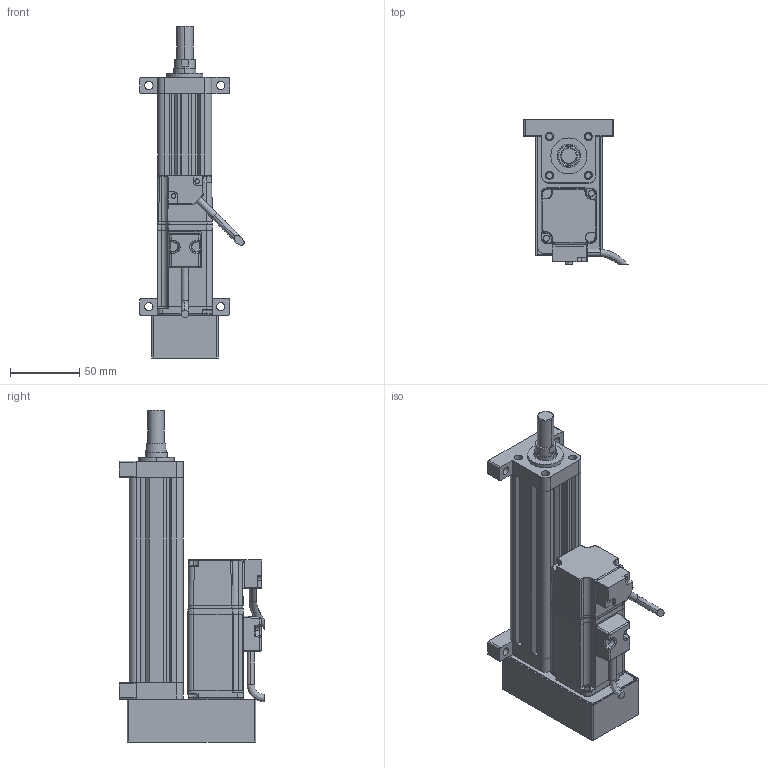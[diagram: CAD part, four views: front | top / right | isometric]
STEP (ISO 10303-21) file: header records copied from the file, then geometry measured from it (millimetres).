
FILE_DESCRIPTION (( 'STEP AP214' ), '1' );
FILE_NAME ('039-S100-D02-B-M2-C1-2.STEP', '2021-02-25T08:46:46', ( '' ), ( '' ), 'SwSTEP 2.0', 'SolidWorks 2018', '' );
FILE_SCHEMA (( 'AUTOMOTIVE_DESIGN' ));
Length unit declared in the file: millimetre
Products named in the file (8): CMC039-GT; CMC039-HDB; CMC039-DT; CMC039-XT; 039-S100-D02-B-M2-C1-2; ECMA-CX0401ES-40框號系列機種-100W低慣量系列; CMC039-QDB; CMC039-LJB
Assembly tree (7 placements, depth 2):
  039-S100-D02-B-M2-C1-2
    CMC039-GT
    CMC039-LJB
    CMC039-XT
    CMC039-DT
    ECMA-CX0401ES-40框號系列機種-100W低慣量系列
    CMC039-QDB
    CMC039-HDB
Bounding box: 75.34 x 104.89 x 240 mm (x, y, z)
Volume: 398795.6 mm3; surface area: 133333 mm2
Topology: 7 solids, 15 shells, 637 faces, 1658 edges, 1033 vertices
Faces by surface type: cylinder 260, plane 254, bspline 84, cone 39
Entity records: 25542 total; most frequent: CARTESIAN_POINT 10820, ORIENTED_EDGE 3250, DIRECTION 2583, EDGE_CURVE 1625, VERTEX_POINT 1033, AXIS2_PLACEMENT_3D 883, LINE 817, VECTOR 817
